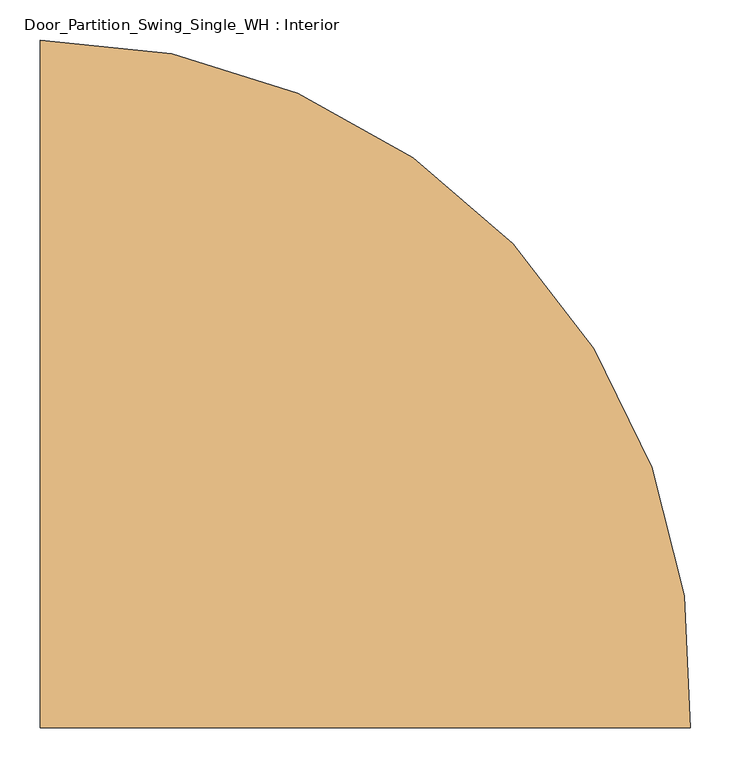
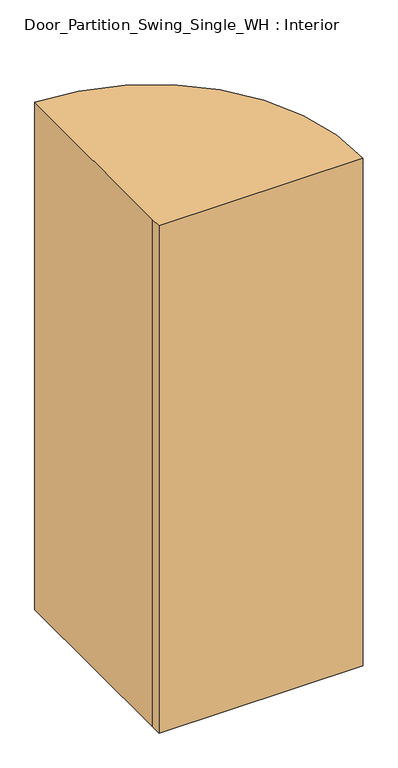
"""IFC4 building model written with IfcOpenShell, lengths in millimetres: door geometry, Door_Partition_Swing_Single_WH : Interior."""

from ifc_helpers import new_model, si_unit, point, frame_2d, origin, origin_with_axes, place, context, project, spatial, polyline, circle_curve, trimmed, segment, composite_curve, outline, extrude, source, transform, mapped, element, save


def door_partition_swing_single_wh_interior_b90220fa(model_context):
    return source(origin(), model_context, "Body", "SweptSolid", [
        extrude(outline(composite_curve([segment(polyline([(-388.0346798, 57.15), (-388.0346798, 101.6), (-388.0346798, 914.4)]), True, "CONTINUOUS"), segment(trimmed(circle_curve(frame_2d((-388.0346798, 101.6)), 812.8), [point((-388.0346798, 914.4))], [point((423.5489803, 57.15))], False, "CARTESIAN"), True, "CONTINUOUS"), segment(polyline([(423.5489803, 57.15), (-388.0346798, 57.15)]), True, "CONTINUOUS")], self_intersect=False)), origin_with_axes(), (0.0, 0.0, 1.0), 2133.6),
    ])


if __name__ == "__main__":
    model = new_model("IFC4")
    model_context = context("Model", 3, world=origin())
    ifc_project = project(units=[si_unit("LENGTHUNIT", "METRE", prefix="MILLI")], contexts=[model_context])
    site = spatial("IfcSite", under=ifc_project)
    building = spatial("IfcBuilding", under=site)
    placement = place(None, origin())
    door_partition_swing_single_wh_interior_shape = door_partition_swing_single_wh_interior_b90220fa(model_context)
    element("IfcDoor", 1, ObjectType="Door_Partition_Swing_Single_WH : Interior", at=placement, inside=building, context=model_context, shape_type="MappedRepresentation", body=[
        mapped(door_partition_swing_single_wh_interior_shape, transform((0.0, 0.0, 0.0), x_axis=(1.0, 0.0, 0.0), y_axis=(0.0, 1.0, 0.0), z_axis=(0.0, 0.0, 1.0))),
    ])
    save(model, "model.ifc")
